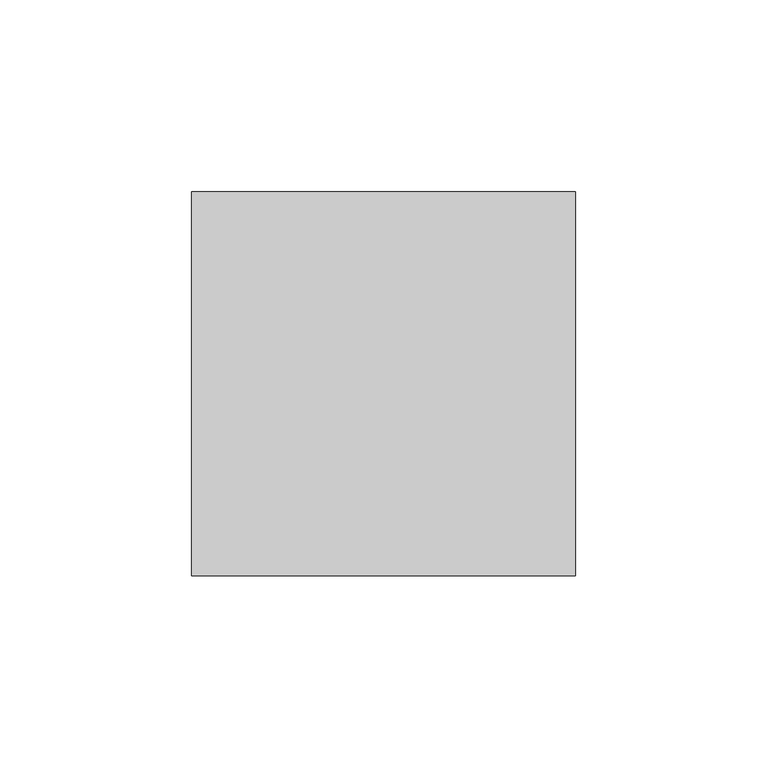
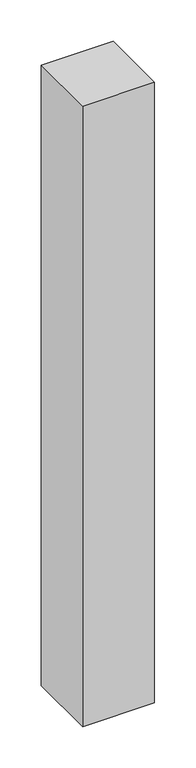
"""IFC4 building model written with IfcOpenShell, lengths in millimetres: proxy geometry, Брус : 100х100."""

from ifc_helpers import new_model, si_unit, origin, origin_with_axes, place, context, project, spatial, polyline, outline, extrude, source, transform, mapped, element, save


def generic_models_467e2e4e(model_context):
    return source(origin(), model_context, "Body", "SweptSolid", [
        extrude(outline(polyline([(100.0, 0.0), (0.0, 0.0), (0.0, 100.0), (100.0, 100.0), (100.0, 0.0)])), origin_with_axes(), (0.0, 0.0, 1.0), 915.0),
    ])


if __name__ == "__main__":
    model = new_model("IFC4")
    model_context = context("Model", 3, world=origin())
    ifc_project = project(units=[si_unit("LENGTHUNIT", "METRE", prefix="MILLI")], contexts=[model_context])
    site = spatial("IfcSite", under=ifc_project)
    building = spatial("IfcBuilding", under=site)
    placement = place(None, origin())
    generic_models_shape = generic_models_467e2e4e(model_context)
    element("IfcBuildingElementProxy", 1, Name="Брус : 100х100", ObjectType="Брус : 100х100", at=placement, inside=building, context=model_context, shape_type="MappedRepresentation", body=[
        mapped(generic_models_shape, transform((0.0, 0.0, 0.0), x_axis=(1.0, 0.0, 0.0), y_axis=(0.0, 1.0, 0.0), z_axis=(0.0, 0.0, 1.0))),
    ])
    save(model, "model.ifc")
